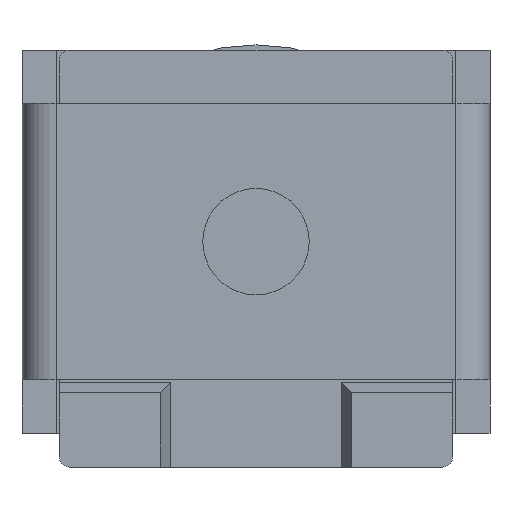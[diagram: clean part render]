
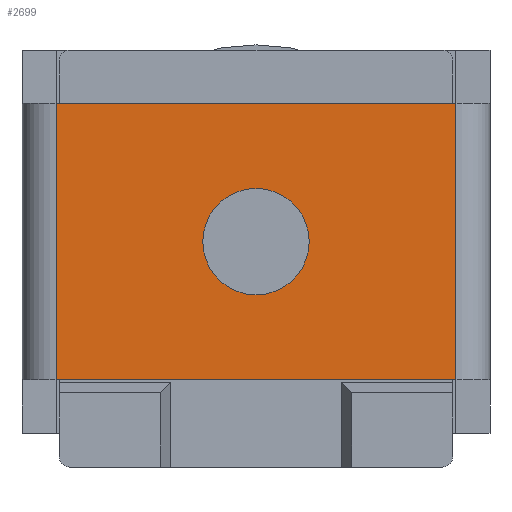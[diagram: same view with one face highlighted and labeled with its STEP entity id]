
A CAD part, front view. The second image highlights one B-rep face of the part: STEP entity #2699.
In plain terms, the highlighted planar face has unit normal (0, -1, 0).
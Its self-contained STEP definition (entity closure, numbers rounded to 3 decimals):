
#65 = LINE ( 'NONE', #3357, #2918 ) ;
#76 = EDGE_CURVE ( 'NONE', #3410, #568, #165, .T. ) ;
#116 = DIRECTION ( 'NONE',  ( 0., 0., 1. ) ) ;
#130 = AXIS2_PLACEMENT_3D ( 'NONE', #3013, #1362, #3290 ) ;
#165 = LINE ( 'NONE', #3364, #3114 ) ;
#185 = CIRCLE ( 'NONE', #130, 2.5 ) ;
#243 = CARTESIAN_POINT ( 'NONE',  ( -9.4, -27., -2.5 ) ) ;
#309 = ORIENTED_EDGE ( 'NONE', *, *, #702, .T. ) ;
#313 = CARTESIAN_POINT ( 'NONE',  ( 0., -27., -9. ) ) ;
#324 = AXIS2_PLACEMENT_3D ( 'NONE', #313, #2251, #591 ) ;
#377 = CIRCLE ( 'NONE', #324, 2.5 ) ;
#474 = VERTEX_POINT ( 'NONE', #2592 ) ;
#568 = VERTEX_POINT ( 'NONE', #1646 ) ;
#591 = DIRECTION ( 'NONE',  ( 0., 0., 1. ) ) ;
#668 = FACE_BOUND ( 'NONE', #1724, .T. ) ;
#702 = EDGE_CURVE ( 'NONE', #1930, #3410, #65, .T. ) ;
#767 = AXIS2_PLACEMENT_3D ( 'NONE', #2881, #1784, #116 ) ;
#777 = EDGE_LOOP ( 'NONE', ( #2744, #2288, #309, #926 ) ) ;
#784 = CARTESIAN_POINT ( 'NONE',  ( 9.4, -27., -2.5 ) ) ;
#846 = LINE ( 'NONE', #1163, #3423 ) ;
#926 = ORIENTED_EDGE ( 'NONE', *, *, #76, .T. ) ;
#1147 = VERTEX_POINT ( 'NONE', #784 ) ;
#1153 = LINE ( 'NONE', #3496, #2547 ) ;
#1163 = CARTESIAN_POINT ( 'NONE',  ( 9.4, -27., -9. ) ) ;
#1312 = FACE_OUTER_BOUND ( 'NONE', #777, .T. ) ;
#1362 = DIRECTION ( 'NONE',  ( 0., -1., 0. ) ) ;
#1505 = EDGE_CURVE ( 'NONE', #1147, #1930, #1153, .T. ) ;
#1520 = CARTESIAN_POINT ( 'NONE',  ( 0., -27., -11.5 ) ) ;
#1646 = CARTESIAN_POINT ( 'NONE',  ( 9.4, -27., -15.5 ) ) ;
#1713 = DIRECTION ( 'NONE',  ( 1., 0., 0. ) ) ;
#1724 = EDGE_LOOP ( 'NONE', ( #1934, #3155 ) ) ;
#1784 = DIRECTION ( 'NONE',  ( 0., 1., 0. ) ) ;
#1930 = VERTEX_POINT ( 'NONE', #243 ) ;
#1934 = ORIENTED_EDGE ( 'NONE', *, *, #2073, .F. ) ;
#2073 = EDGE_CURVE ( 'NONE', #474, #2369, #377, .T. ) ;
#2108 = EDGE_CURVE ( 'NONE', #568, #1147, #846, .T. ) ;
#2136 = DIRECTION ( 'NONE',  ( -1., 0., 0. ) ) ;
#2251 = DIRECTION ( 'NONE',  ( 0., -1., 0. ) ) ;
#2268 = CARTESIAN_POINT ( 'NONE',  ( -9.4, -27., -15.5 ) ) ;
#2288 = ORIENTED_EDGE ( 'NONE', *, *, #1505, .T. ) ;
#2369 = VERTEX_POINT ( 'NONE', #1520 ) ;
#2547 = VECTOR ( 'NONE', #2136, 1000. ) ;
#2592 = CARTESIAN_POINT ( 'NONE',  ( 0., -27., -6.5 ) ) ;
#2699 = ADVANCED_FACE ( 'NONE', ( #668, #1312 ), #3420, .F. ) ;
#2744 = ORIENTED_EDGE ( 'NONE', *, *, #2108, .T. ) ;
#2819 = DIRECTION ( 'NONE',  ( 0., 0., -1. ) ) ;
#2881 = CARTESIAN_POINT ( 'NONE',  ( -9.4, -27., -15.5 ) ) ;
#2918 = VECTOR ( 'NONE', #2819, 1000. ) ;
#3013 = CARTESIAN_POINT ( 'NONE',  ( 0., -27., -9. ) ) ;
#3081 = DIRECTION ( 'NONE',  ( 0., 0., 1. ) ) ;
#3098 = EDGE_CURVE ( 'NONE', #2369, #474, #185, .T. ) ;
#3114 = VECTOR ( 'NONE', #1713, 1000. ) ;
#3155 = ORIENTED_EDGE ( 'NONE', *, *, #3098, .F. ) ;
#3290 = DIRECTION ( 'NONE',  ( 0., 0., 1. ) ) ;
#3357 = CARTESIAN_POINT ( 'NONE',  ( -9.4, -27., -9. ) ) ;
#3364 = CARTESIAN_POINT ( 'NONE',  ( 0., -27., -15.5 ) ) ;
#3410 = VERTEX_POINT ( 'NONE', #2268 ) ;
#3420 = PLANE ( 'NONE',  #767 ) ;
#3423 = VECTOR ( 'NONE', #3081, 1000. ) ;
#3496 = CARTESIAN_POINT ( 'NONE',  ( 0., -27., -2.5 ) ) ;
